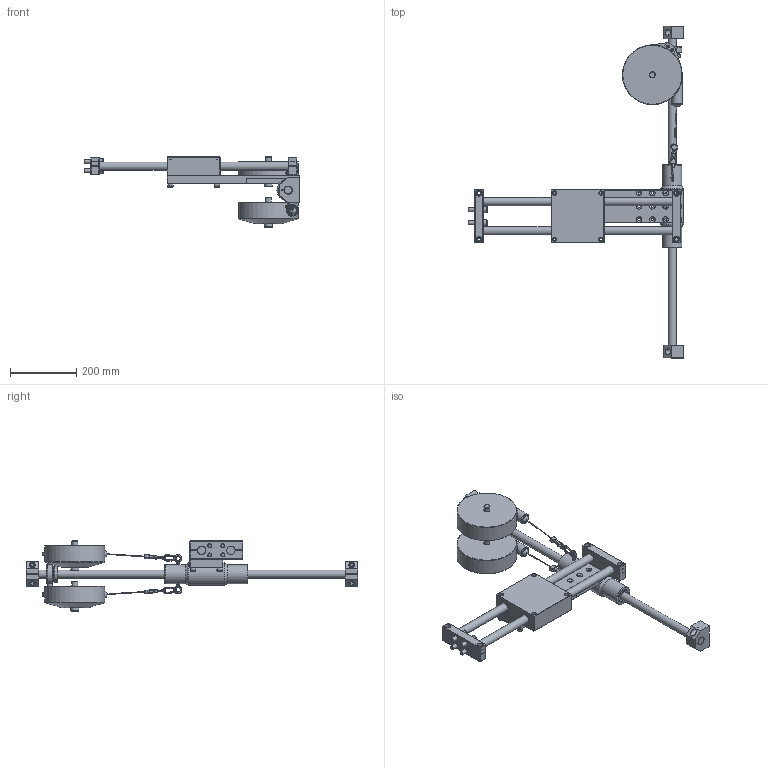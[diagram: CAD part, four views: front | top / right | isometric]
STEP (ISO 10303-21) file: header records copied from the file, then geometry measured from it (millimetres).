
FILE_DESCRIPTION( ( 'Unknown' ), '1' );
FILE_NAME( 'D:/dogabe/Industrie/Assemblage 2009/09-11-3415 DOGA BA400/4-1201093_bras BA 400_3D/4-1201093_bras BA 400.stp', 'Unknown', ( 'Unknown' ), ( 'Unknown' ), 'PSStep 14.0', 'Unknown', ' ' );
FILE_SCHEMA( ( 'AUTOMOTIVE_DESIGN { 1 0 10303 214 1 1 1 1 }' ) );
Length unit declared in the file: millimetre
Products named in the file (45): Asm TB25 modifi\X2\00E\X0\; Douille KB25; Douille KB25-oa11; Douille KB25-oa12; Douille KB25-oa13; TB25 modifi\X2\00E\X0\; Bras BA400; Douille KB25-oa4; Piton M6; Piton M6-oa5; Fourreau; CHC M10x040; Plaque support pour BA400; FHC M8x35; FHC M8x35-oa6; FHC M8x35-oa7; FHC M8x35-oa8; FHC M8x35-oa9; FHC M8x35-oa10; Mat BA400; mat 2; PAK25; Asm coulisse; Axe Ø25 x 620; Axe Ø25 x 620-oa3; BEB25 modifi\X2\00E\X0\; BEB25 ; Asm montage mat inversé pour BA400; C 25-30x20; CHC M8x50; Entretoise; bague support équilibreur pour BA200; bague pour BA200; Entretoise-oa14; Equilibreur 8 - 10Kg; Equilibreur 8 - 10Kg-oa15; Assem1; CHC M12x045; CHC M12x045-oa0; CHC M12x045-oa1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
Assembly tree (49 placements, depth 4):
  Assem1
    CHC M12x045
    CHC M12x045-oa0
    CHC M12x045-oa1
    CHC M12x045-oa2
    Cable gros équilibreur
    Cable gros équilibreur-oa16
    Asm coulisse
      Axe Ø25 x 620
      Axe Ø25 x 620-oa3
      BEB25 modifi\X2\00E\X0\
      BEB25 
    Bras BA400
      Douille KB25
      Douille KB25-oa4
      Piton M6
      Piton M6-oa5
      Fourreau
      CHC M10x040  x4
      Plaque support pour BA400
      FHC M8x35
      FHC M8x35-oa6
      FHC M8x35-oa7
      FHC M8x35-oa8
      FHC M8x35-oa9
      FHC M8x35-oa10
      Asm TB25 modifi\X2\00E\X0\
        Douille KB25
        Douille KB25-oa11
        Douille KB25-oa12
        Douille KB25-oa13
        TB25 modifi\X2\00E\X0\
    Mat BA400
      mat 2
      PAK25  x2
    Asm montage mat inversé pour BA400
      C 25-30x20
      CHC M8x50
      Entretoise  x2
      bague support équilibreur pour BA200
      bague pour BA200
      Entretoise
      Entretoise-oa14
      Equilibreur 8 - 10Kg
      Equilibreur 8 - 10Kg-oa15
Bounding box: 650 x 1000 x 211 mm (x, y, z)
Volume: 7656974.5 mm3; surface area: 952656.1 mm2
Topology: 44 solids, 44 shells, 967 faces, 2239 edges, 1426 vertices
Faces by surface type: plane 488, cylinder 296, cone 98, torus 53, sphere 18, bspline 14
Full cylindrical faces by diameter (mm): 2 x2, 4.134 x1, 5 x2, 5.5 x1, 6 x2, 6.8 x8, 7.8 x7, 8 x19, 8.376 x2, 8.4 x4, 8.5 x8, 9 x5, 9.8 x4, 10 x8, 10.106 x8, 10.2 x4, 10.5 x4, 11.8 x4, 12 x4, 13 x9, 13.5 x4, 16 x4, 17 x4, 18 x6, 19 x4, 25 x12, 26 x1, 27 x2, 30 x2, 32 x2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
Entity records: 33062 total; most frequent: CARTESIAN_POINT 6875, DIRECTION 4172, ORIENTED_EDGE 3310, AXIS2_PLACEMENT_3D 1664, EDGE_CURVE 1655, EDGE_LOOP 1338, VERTEX_POINT 1179, FACE_OUTER_BOUND 1054
